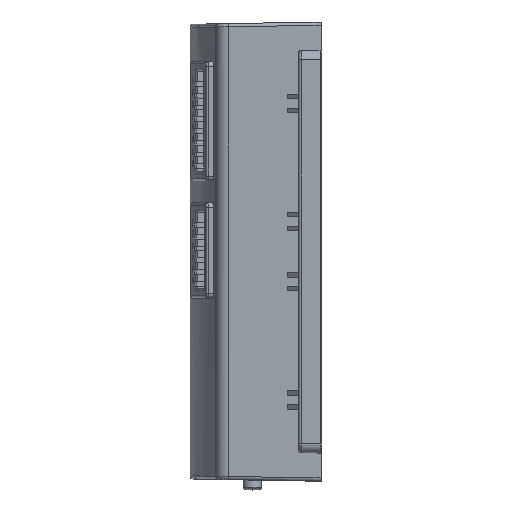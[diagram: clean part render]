
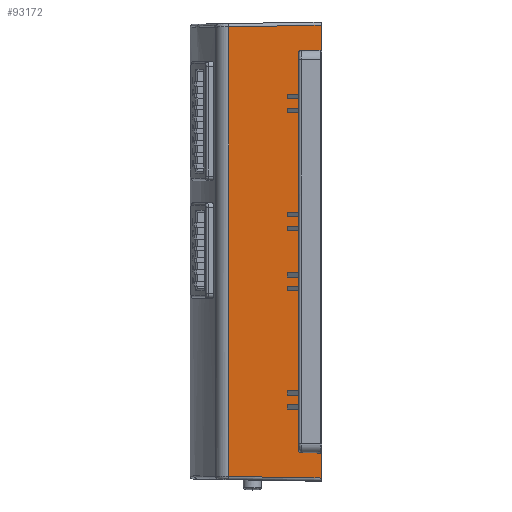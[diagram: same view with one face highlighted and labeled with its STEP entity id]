
A CAD part, left-side view. The second image highlights one B-rep face of the part: STEP entity #93172.
In plain terms, the highlighted planar face has unit normal (-0.999, 0.035, 0).
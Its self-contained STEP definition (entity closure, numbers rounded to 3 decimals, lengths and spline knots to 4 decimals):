
#43469 = DIRECTION ( 'NONE',  ( -0.035, -0.999, -0.017 ) ) ;
#43470 = VECTOR ( 'NONE', #43469, 39.3701 ) ;
#43471 = CARTESIAN_POINT ( 'NONE',  ( -1.7291, 0.5976, -1.9108 ) ) ;
#43472 = LINE ( 'NONE', #43471, #43470 ) ;
#43489 = CARTESIAN_POINT ( 'NONE',  ( -1.7566, -0.189, -1.9246 ) ) ;
#43500 = CARTESIAN_POINT ( 'NONE',  ( -1.7291, 0.5976, -1.9108 ) ) ;
#43512 = CARTESIAN_POINT ( 'NONE',  ( -1.7566, -0.189, 1.6529 ) ) ;
#43535 = DIRECTION ( 'NONE',  ( 0.035, 0.999, 0.017 ) ) ;
#43536 = VECTOR ( 'NONE', #43535, 39.3701 ) ;
#43537 = CARTESIAN_POINT ( 'NONE',  ( -1.7566, -0.189, -1.6529 ) ) ;
#43538 = LINE ( 'NONE', #43537, #43536 ) ;
#43539 = CARTESIAN_POINT ( 'NONE',  ( -1.75, 0., -1.6496 ) ) ;
#43553 = DIRECTION ( 'NONE',  ( 0., 0., 1. ) ) ;
#43554 = VECTOR ( 'NONE', #43553, 39.3701 ) ;
#43555 = CARTESIAN_POINT ( 'NONE',  ( -1.75, 0., -2.0495 ) ) ;
#43556 = LINE ( 'NONE', #43555, #43554 ) ;
#43557 = CARTESIAN_POINT ( 'NONE',  ( -1.75, 0., 1.6496 ) ) ;
#43574 = DIRECTION ( 'NONE',  ( 0., 0., 1. ) ) ;
#43575 = VECTOR ( 'NONE', #43574, 39.3701 ) ;
#43576 = CARTESIAN_POINT ( 'NONE',  ( -1.7566, -0.189, -2.0495 ) ) ;
#43577 = LINE ( 'NONE', #43576, #43575 ) ;
#43578 = CARTESIAN_POINT ( 'NONE',  ( -1.7566, -0.189, -1.6529 ) ) ;
#43663 = DIRECTION ( 'NONE',  ( -0.035, -0.999, 0.017 ) ) ;
#43664 = VECTOR ( 'NONE', #43663, 39.3701 ) ;
#43665 = CARTESIAN_POINT ( 'NONE',  ( -1.75, 0., 1.6496 ) ) ;
#43666 = LINE ( 'NONE', #43665, #43664 ) ;
#43709 = CARTESIAN_POINT ( 'NONE',  ( -1.7566, -0.189, 1.9246 ) ) ;
#43710 = DIRECTION ( 'NONE',  ( 0.035, 0.999, -0.017 ) ) ;
#43711 = VECTOR ( 'NONE', #43710, 39.3701 ) ;
#43712 = CARTESIAN_POINT ( 'NONE',  ( -1.7566, -0.189, 1.9246 ) ) ;
#43713 = LINE ( 'NONE', #43712, #43711 ) ;
#43720 = CARTESIAN_POINT ( 'NONE',  ( -1.7291, 0.5976, 1.9108 ) ) ;
#43867 = DIRECTION ( 'NONE',  ( 0., 0., 1. ) ) ;
#43868 = VECTOR ( 'NONE', #43867, 39.3701 ) ;
#43869 = CARTESIAN_POINT ( 'NONE',  ( -1.7566, -0.189, -2.0495 ) ) ;
#43870 = LINE ( 'NONE', #43869, #43868 ) ;
#44060 = DIRECTION ( 'NONE',  ( 0., 0., 1. ) ) ;
#44061 = VECTOR ( 'NONE', #44060, 39.3701 ) ;
#44062 = CARTESIAN_POINT ( 'NONE',  ( -1.7291, 0.5976, 1.9562 ) ) ;
#44063 = LINE ( 'NONE', #44062, #44061 ) ;
#44064 = DIRECTION ( 'NONE',  ( -0.035, -0.999, 0. ) ) ;
#44065 = DIRECTION ( 'NONE',  ( -0.999, 0.035, 0. ) ) ;
#44066 = CARTESIAN_POINT ( 'NONE',  ( -1.75, 0., -2.0495 ) ) ;
#44067 = AXIS2_PLACEMENT_3D ( 'NONE', #44066, #44065, #44064 ) ;
#44083 = PLANE ( 'NONE',  #44067 ) ;
#44084 = FACE_OUTER_BOUND ( 'NONE', #93173, .T. ) ;
#92768 = EDGE_CURVE ( 'NONE', #92786, #92792, #43472, .T. ) ;
#92786 = VERTEX_POINT ( 'NONE', #43500 ) ;
#92792 = VERTEX_POINT ( 'NONE', #43489 ) ;
#92808 = VERTEX_POINT ( 'NONE', #43512 ) ;
#92817 = VERTEX_POINT ( 'NONE', #43557 ) ;
#92819 = EDGE_CURVE ( 'NONE', #92830, #92817, #43556, .T. ) ;
#92830 = VERTEX_POINT ( 'NONE', #43539 ) ;
#92832 = EDGE_CURVE ( 'NONE', #92845, #92830, #43538, .T. ) ;
#92845 = VERTEX_POINT ( 'NONE', #43578 ) ;
#92847 = EDGE_CURVE ( 'NONE', #92792, #92845, #43577, .T. ) ;
#92891 = EDGE_CURVE ( 'NONE', #92817, #92808, #43666, .T. ) ;
#92922 = VERTEX_POINT ( 'NONE', #43720 ) ;
#92925 = EDGE_CURVE ( 'NONE', #92926, #92922, #43713, .T. ) ;
#92926 = VERTEX_POINT ( 'NONE', #43709 ) ;
#92975 = EDGE_CURVE ( 'NONE', #92808, #92926, #43870, .T. ) ;
#93172 = ADVANCED_FACE ( 'NONE', ( #44084 ), #44083, .T. ) ;
#93173 = EDGE_LOOP ( 'NONE', ( #93174, #93175, #93176, #93178, #93238, #93239, #93240, #93241 ) ) ;
#93174 = ORIENTED_EDGE ( 'NONE', *, *, #92975, .T. ) ;
#93175 = ORIENTED_EDGE ( 'NONE', *, *, #92925, .T. ) ;
#93176 = ORIENTED_EDGE ( 'NONE', *, *, #93177, .F. ) ;
#93177 = EDGE_CURVE ( 'NONE', #92786, #92922, #44063, .T. ) ;
#93178 = ORIENTED_EDGE ( 'NONE', *, *, #92768, .T. ) ;
#93238 = ORIENTED_EDGE ( 'NONE', *, *, #92847, .T. ) ;
#93239 = ORIENTED_EDGE ( 'NONE', *, *, #92832, .T. ) ;
#93240 = ORIENTED_EDGE ( 'NONE', *, *, #92819, .T. ) ;
#93241 = ORIENTED_EDGE ( 'NONE', *, *, #92891, .T. ) ;
